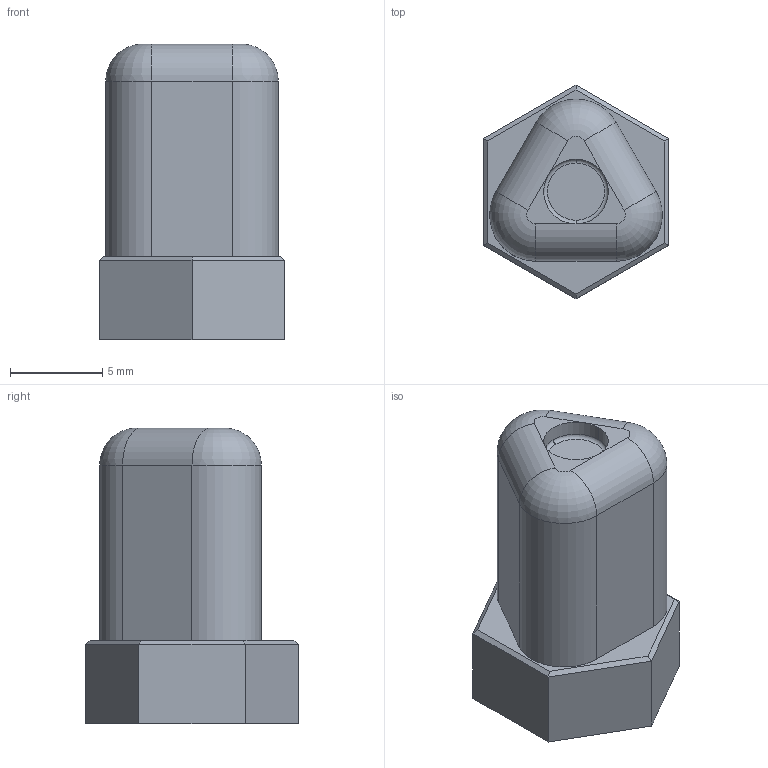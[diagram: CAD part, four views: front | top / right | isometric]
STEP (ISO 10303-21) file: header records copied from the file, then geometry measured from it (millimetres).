
FILE_DESCRIPTION(('Creo Elements/Direct Modeling STEP Export'),'2;1');
FILE_NAME('19990621_OA-BC5.stp','2013-03-29T11:26:30',(''),(''),'Creo Elements/Direct Modeling STEP processor for AP214 (Solid Model)','Creo Elements/Direct Modeling 18.1B 29-Sep-2012 (C) Parametric Technology GmbH','');
FILE_SCHEMA(('AUTOMOTIVE_DESIGN { 1 0 10303 214 1 1 1 1 }'));
Length unit declared in the file: millimetre
Products named in the file (1): OA-BC5
Bounding box: 10 x 11.55 x 16 mm (x, y, z)
Volume: 592.2 mm3; surface area: 926.3 mm2
Topology: 1 solids, 1 shells, 78 faces, 186 edges, 113 vertices
Faces by surface type: plane 53, cylinder 17, torus 8
Entity records: 2142 total; most frequent: ORIENTED_EDGE 372, DIRECTION 364, CARTESIAN_POINT 356, EDGE_CURVE 186, VECTOR 122, LINE 122, AXIS2_PLACEMENT_3D 121, VERTEX_POINT 113
